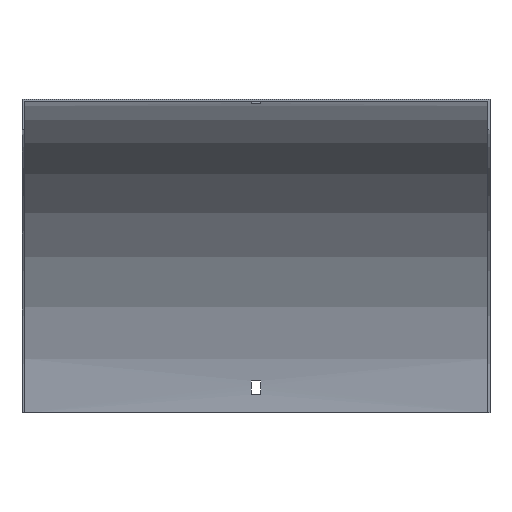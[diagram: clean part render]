
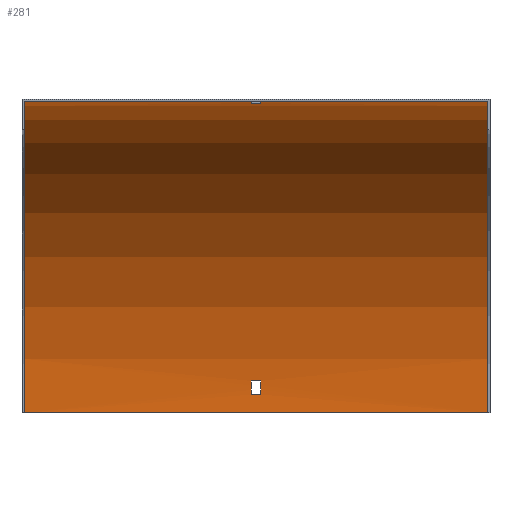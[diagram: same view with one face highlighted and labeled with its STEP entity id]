
A CAD part, top view. The second image highlights one B-rep face of the part: STEP entity #281.
In plain terms, the highlighted cylindrical face has radius 204 mm (diameter 408 mm), a partial arc.
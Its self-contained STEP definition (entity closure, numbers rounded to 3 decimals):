
#10 = DIRECTION ( 'NONE',  ( 0., 0., -1. ) ) ;
#12 = CARTESIAN_POINT ( 'NONE',  ( 3.25, -1.853, -12. ) ) ;
#13 = LINE ( 'NONE', #194, #372 ) ;
#17 = EDGE_CURVE ( 'NONE', #391, #142, #137, .T. ) ;
#21 = CARTESIAN_POINT ( 'NONE',  ( 152., -205.5, -204. ) ) ;
#22 = LINE ( 'NONE', #393, #300 ) ;
#27 = ORIENTED_EDGE ( 'NONE', *, *, #118, .T. ) ;
#37 = CARTESIAN_POINT ( 'NONE',  ( 153.5, -205.5, 0. ) ) ;
#42 = CARTESIAN_POINT ( 'NONE',  ( -3.25, -2.584, -21. ) ) ;
#50 = VERTEX_POINT ( 'NONE', #221 ) ;
#58 = AXIS2_PLACEMENT_3D ( 'NONE', #388, #146, #339 ) ;
#63 = EDGE_CURVE ( 'NONE', #484, #450, #364, .T. ) ;
#64 = CARTESIAN_POINT ( 'NONE',  ( 153.5, -193.5, -203.647 ) ) ;
#66 = CARTESIAN_POINT ( 'NONE',  ( -3.25, -1.853, -12. ) ) ;
#73 = FACE_BOUND ( 'NONE', #128, .T. ) ;
#78 = ORIENTED_EDGE ( 'NONE', *, *, #542, .T. ) ;
#86 = EDGE_CURVE ( 'NONE', #450, #509, #486, .T. ) ;
#87 = AXIS2_PLACEMENT_3D ( 'NONE', #381, #348, #10 ) ;
#95 = ORIENTED_EDGE ( 'NONE', *, *, #156, .T. ) ;
#98 = EDGE_CURVE ( 'NONE', #405, #50, #353, .T. ) ;
#102 = CIRCLE ( 'NONE', #58, 204. ) ;
#106 = DIRECTION ( 'NONE',  ( 1., 0., 0. ) ) ;
#107 = ORIENTED_EDGE ( 'NONE', *, *, #124, .F. ) ;
#110 = ORIENTED_EDGE ( 'NONE', *, *, #86, .F. ) ;
#111 = EDGE_CURVE ( 'NONE', #349, #512, #13, .T. ) ;
#118 = EDGE_CURVE ( 'NONE', #142, #50, #531, .T. ) ;
#124 = EDGE_CURVE ( 'NONE', #407, #484, #22, .T. ) ;
#128 = EDGE_LOOP ( 'NONE', ( #291, #110, #357, #107 ) ) ;
#136 = VERTEX_POINT ( 'NONE', #248 ) ;
#137 = CIRCLE ( 'NONE', #220, 204. ) ;
#139 = VECTOR ( 'NONE', #201, 1000. ) ;
#142 = VERTEX_POINT ( 'NONE', #447 ) ;
#146 = DIRECTION ( 'NONE',  ( -1., 0., 0. ) ) ;
#147 = DIRECTION ( 'NONE',  ( 0., 0., 1. ) ) ;
#155 = CARTESIAN_POINT ( 'NONE',  ( 152., -1.5, 0. ) ) ;
#156 = EDGE_CURVE ( 'NONE', #136, #562, #337, .T. ) ;
#165 = FACE_BOUND ( 'NONE', #243, .T. ) ;
#178 = DIRECTION ( 'NONE',  ( -1., 0., 0. ) ) ;
#180 = CARTESIAN_POINT ( 'NONE',  ( 152., -205.5, -204. ) ) ;
#193 = DIRECTION ( 'NONE',  ( -1., 0., 0. ) ) ;
#194 = CARTESIAN_POINT ( 'NONE',  ( 153.5, -184.5, -202.916 ) ) ;
#195 = ORIENTED_EDGE ( 'NONE', *, *, #17, .T. ) ;
#197 = DIRECTION ( 'NONE',  ( 1., 0., 0. ) ) ;
#198 = EDGE_LOOP ( 'NONE', ( #203, #331, #195, #27 ) ) ;
#201 = DIRECTION ( 'NONE',  ( -1., 0., 0. ) ) ;
#203 = ORIENTED_EDGE ( 'NONE', *, *, #98, .F. ) ;
#218 = DIRECTION ( 'NONE',  ( 0., 0., 1. ) ) ;
#219 = DIRECTION ( 'NONE',  ( -1., 0., 0. ) ) ;
#220 = AXIS2_PLACEMENT_3D ( 'NONE', #507, #555, #218 ) ;
#221 = CARTESIAN_POINT ( 'NONE',  ( -152., -1.5, 0. ) ) ;
#229 = VECTOR ( 'NONE', #576, 1000. ) ;
#243 = EDGE_LOOP ( 'NONE', ( #95, #78, #383, #403 ) ) ;
#248 = CARTESIAN_POINT ( 'NONE',  ( 3.25, -193.5, -203.647 ) ) ;
#266 = FACE_OUTER_BOUND ( 'NONE', #198, .T. ) ;
#268 = CARTESIAN_POINT ( 'NONE',  ( -3.25, -184.5, -202.916 ) ) ;
#280 = CARTESIAN_POINT ( 'NONE',  ( -3.25, -193.5, -203.647 ) ) ;
#281 = ADVANCED_FACE ( 'NONE', ( #73, #266, #165 ), #410, .F. ) ;
#284 = DIRECTION ( 'NONE',  ( 1., 0., 0. ) ) ;
#291 = ORIENTED_EDGE ( 'NONE', *, *, #378, .F. ) ;
#298 = DIRECTION ( 'NONE',  ( -1., 0., 0. ) ) ;
#300 = VECTOR ( 'NONE', #570, 1000. ) ;
#322 = VECTOR ( 'NONE', #193, 1000. ) ;
#331 = ORIENTED_EDGE ( 'NONE', *, *, #500, .F. ) ;
#332 = CIRCLE ( 'NONE', #374, 204. ) ;
#337 = LINE ( 'NONE', #64, #229 ) ;
#339 = DIRECTION ( 'NONE',  ( 0., 0., 1. ) ) ;
#348 = DIRECTION ( 'NONE',  ( 1., 0., 0. ) ) ;
#349 = VERTEX_POINT ( 'NONE', #268 ) ;
#353 = CIRCLE ( 'NONE', #524, 204. ) ;
#357 = ORIENTED_EDGE ( 'NONE', *, *, #63, .F. ) ;
#364 = CIRCLE ( 'NONE', #87, 204. ) ;
#372 = VECTOR ( 'NONE', #197, 1000. ) ;
#374 = AXIS2_PLACEMENT_3D ( 'NONE', #392, #284, #522 ) ;
#378 = EDGE_CURVE ( 'NONE', #509, #407, #465, .T. ) ;
#381 = CARTESIAN_POINT ( 'NONE',  ( 3.25, -205.5, 0. ) ) ;
#383 = ORIENTED_EDGE ( 'NONE', *, *, #111, .T. ) ;
#385 = CARTESIAN_POINT ( 'NONE',  ( 3.25, -2.584, -21. ) ) ;
#388 = CARTESIAN_POINT ( 'NONE',  ( 3.25, -205.5, 0. ) ) ;
#391 = VERTEX_POINT ( 'NONE', #180 ) ;
#392 = CARTESIAN_POINT ( 'NONE',  ( -3.25, -205.5, 0. ) ) ;
#393 = CARTESIAN_POINT ( 'NONE',  ( 153.5, -2.584, -21. ) ) ;
#397 = CARTESIAN_POINT ( 'NONE',  ( -152., -205.5, 0. ) ) ;
#403 = ORIENTED_EDGE ( 'NONE', *, *, #567, .T. ) ;
#405 = VERTEX_POINT ( 'NONE', #557 ) ;
#407 = VERTEX_POINT ( 'NONE', #42 ) ;
#410 = CYLINDRICAL_SURFACE ( 'NONE', #511, 204. ) ;
#441 = CARTESIAN_POINT ( 'NONE',  ( 153.5, -1.853, -12. ) ) ;
#444 = AXIS2_PLACEMENT_3D ( 'NONE', #607, #178, #513 ) ;
#447 = CARTESIAN_POINT ( 'NONE',  ( 152., -1.5, 0. ) ) ;
#450 = VERTEX_POINT ( 'NONE', #12 ) ;
#465 = CIRCLE ( 'NONE', #444, 204. ) ;
#484 = VERTEX_POINT ( 'NONE', #385 ) ;
#486 = LINE ( 'NONE', #441, #139 ) ;
#495 = DIRECTION ( 'NONE',  ( 0., 0., 1. ) ) ;
#500 = EDGE_CURVE ( 'NONE', #391, #405, #530, .T. ) ;
#507 = CARTESIAN_POINT ( 'NONE',  ( 152., -205.5, 0. ) ) ;
#509 = VERTEX_POINT ( 'NONE', #66 ) ;
#511 = AXIS2_PLACEMENT_3D ( 'NONE', #37, #219, #495 ) ;
#512 = VERTEX_POINT ( 'NONE', #569 ) ;
#513 = DIRECTION ( 'NONE',  ( 0., 0., 1. ) ) ;
#522 = DIRECTION ( 'NONE',  ( 0., 0., -1. ) ) ;
#524 = AXIS2_PLACEMENT_3D ( 'NONE', #397, #106, #147 ) ;
#530 = LINE ( 'NONE', #21, #322 ) ;
#531 = LINE ( 'NONE', #155, #558 ) ;
#542 = EDGE_CURVE ( 'NONE', #562, #349, #332, .T. ) ;
#555 = DIRECTION ( 'NONE',  ( 1., 0., 0. ) ) ;
#557 = CARTESIAN_POINT ( 'NONE',  ( -152., -205.5, -204. ) ) ;
#558 = VECTOR ( 'NONE', #298, 1000. ) ;
#562 = VERTEX_POINT ( 'NONE', #280 ) ;
#567 = EDGE_CURVE ( 'NONE', #512, #136, #102, .T. ) ;
#569 = CARTESIAN_POINT ( 'NONE',  ( 3.25, -184.5, -202.916 ) ) ;
#570 = DIRECTION ( 'NONE',  ( 1., 0., 0. ) ) ;
#576 = DIRECTION ( 'NONE',  ( -1., 0., 0. ) ) ;
#607 = CARTESIAN_POINT ( 'NONE',  ( -3.25, -205.5, 0. ) ) ;
